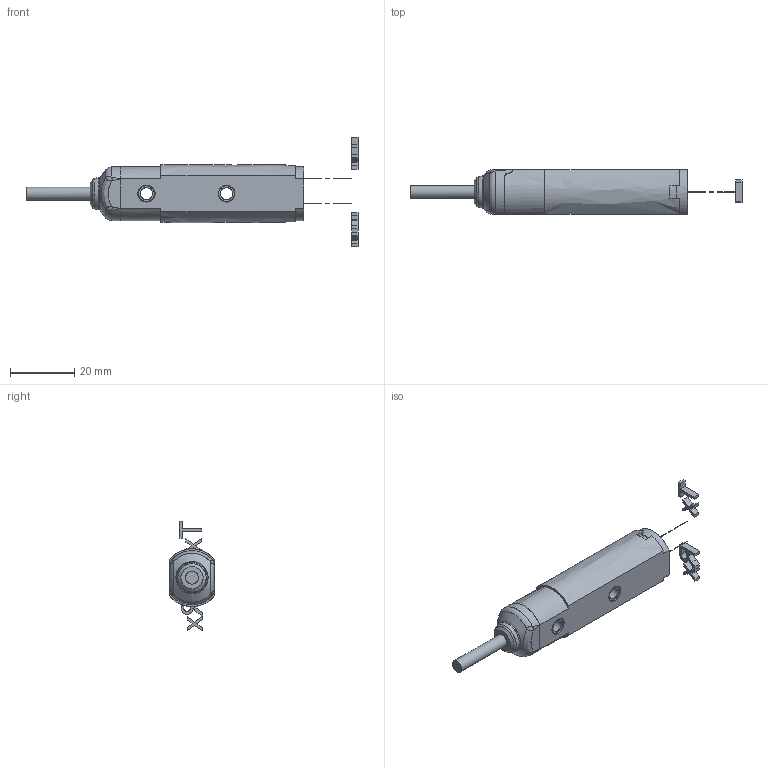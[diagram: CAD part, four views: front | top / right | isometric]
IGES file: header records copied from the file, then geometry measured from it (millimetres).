
Global section: file name: D:\TMP\DSD-0034.igs; preprocessor: I-DEAS 3D IGES Translator 11; date: 20060607.083936; units: millimetre
Bounding box: 103.58 x 14 x 34.32 mm (x, y, z)
Volume: 91.1 mm3; surface area: 4967.3 mm2
Topology: 8 solids, 8 shells, 197 faces, 919 edges, 829 vertices
Faces by surface type: bspline 197
